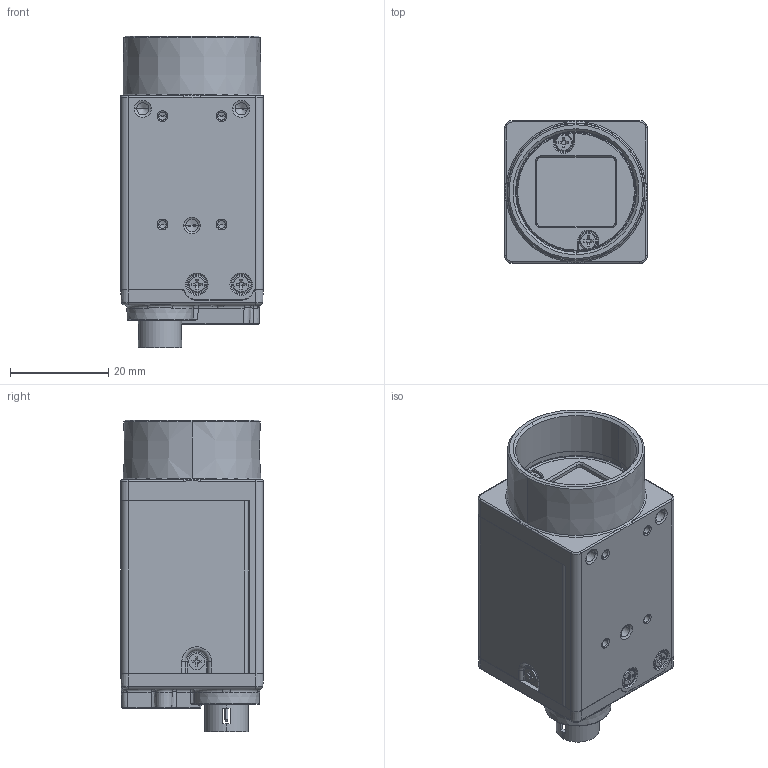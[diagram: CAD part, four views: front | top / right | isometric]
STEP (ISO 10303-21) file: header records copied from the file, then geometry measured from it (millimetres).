
FILE_DESCRIPTION((''),'2;1');
FILE_NAME('DH9-RDI000304-6031_AF0_1','2023-11-22T15:45:21',('21511'),(''),'CREO PARAMETRIC BY PTC INC, 2020184','CREO PARAMETRIC BY PTC INC, 2020184','');
FILE_SCHEMA(('CONFIG_CONTROL_DESIGN','SHAPE_APPEARANCE_LAYERS_GROUPS'));
Products named in the file (1): DH9-RDI000304-6031_AF0_1
Bounding box: 29 x 29 x 63.2 mm (x, y, z)
Volume: 36053 mm3; surface area: 21777.7 mm2
Topology: 1 solids, 13 shells, 2025 faces, 5447 edges, 3438 vertices
Faces by surface type: plane 1063, cylinder 565, cone 187, bspline 79, extrusion 57, torus 52, sphere 22
Entity records: 85518 total; most frequent: CARTESIAN_POINT 18686, ORIENTED_EDGE 10770, DIRECTION 9958, PRESENTATION_STYLE_ASSIGNMENT 5425, STYLED_ITEM 5386, CURVE_STYLE 5385, EDGE_CURVE 5385, VECTOR 3522
